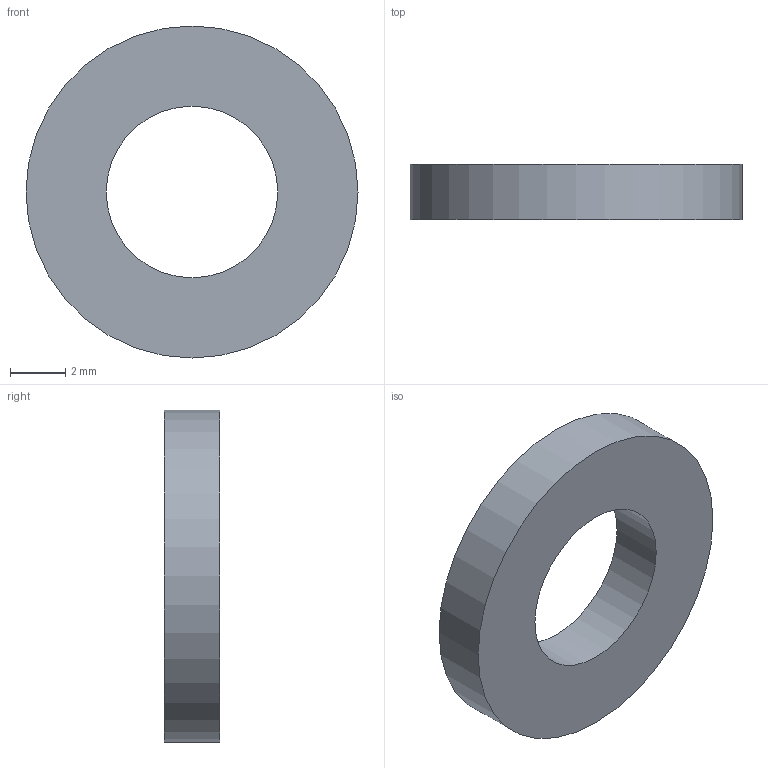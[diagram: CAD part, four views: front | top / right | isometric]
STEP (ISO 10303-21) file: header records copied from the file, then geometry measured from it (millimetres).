
FILE_DESCRIPTION(/* description */ (''),/* implementation_level */ '2;1');
FILE_NAME(/* name */ '',/* time_stamp */ '2025-10-01T16:41:26+09:00',/* author */ ('jhkim'),/* organization */ (''),/* preprocessor_version */ 'ST-DEVELOPER v20.1',/* originating_system */ 'Autodesk Inventor 2026',/* authorisation */ '');
FILE_SCHEMA (('AUTOMOTIVE_DESIGN { 1 0 10303 214 3 1 1 }'));
Length unit declared in the file: millimetre
Products named in the file (1): 실링
Bounding box: 12 x 2 x 12 mm (x, y, z)
Volume: 165.8 mm3; surface area: 280.2 mm2
Topology: 1 solids, 1 shells, 4 faces, 6 edges, 4 vertices
Faces by surface type: cylinder 2, plane 2
Full cylindrical faces by diameter (mm): 6.2 x1, 12 x1
Entity records: 141 total; most frequent: DIRECTION 20, CARTESIAN_POINT 15, ORIENTED_EDGE 12, AXIS2_PLACEMENT_3D 9, EDGE_LOOP 6, EDGE_CURVE 6, FACE_OUTER_BOUND 4, CIRCLE 4
